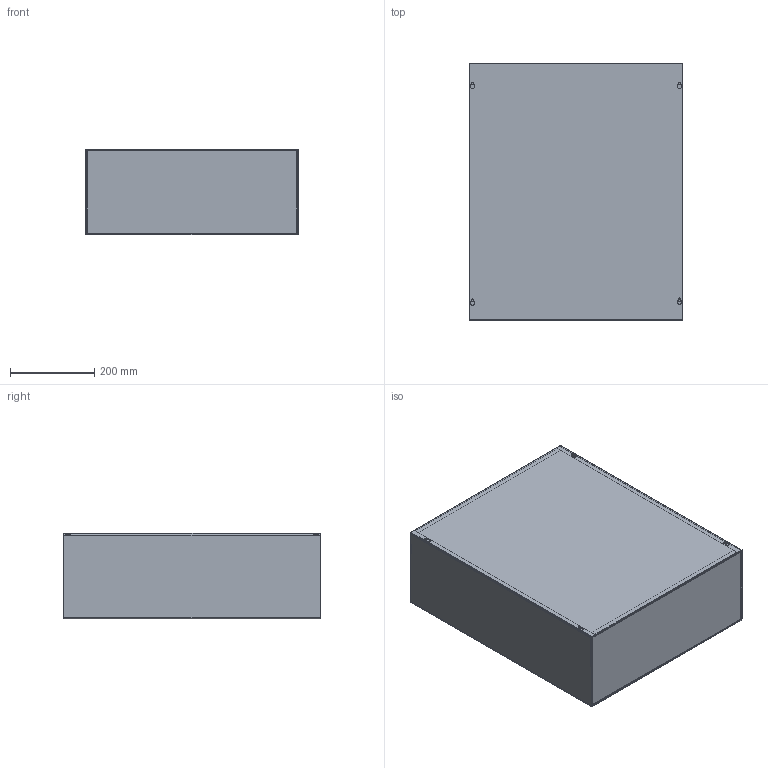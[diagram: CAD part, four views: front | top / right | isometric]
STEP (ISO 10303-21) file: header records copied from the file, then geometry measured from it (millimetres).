
FILE_DESCRIPTION (( 'STEP AP203' ), '1' );
FILE_NAME ('asg24x20x8nk.STEP', '2011-02-04T20:59:50', ( 'Hoffman User' ), ( 'Hoffman Enclosures' ), 'SwSTEP 2.0', 'SolidWorks 2009', '' );
FILE_SCHEMA (( 'CONFIG_CONTROL_DESIGN' ));
Length unit declared in the file: inch
Products named in the file (5): 87757890; 87757711; asg24x20x8nk; 89054639_WELDMENT; 87757892
Assembly tree (5 placements, depth 3):
  asg24x20x8nk
    89054639_WELDMENT
      87757892  x2
      87757890
    87757711
Bounding box: 508 x 609.6 x 204.6 mm (x, y, z)
Volume: 1799732.7 mm3; surface area: 2239749.5 mm2
Topology: 4 solids, 4 shells, 189 faces, 434 edges, 256 vertices
Faces by surface type: plane 107, cylinder 60, torus 10, bspline 8, cone 4
Entity records: 5207 total; most frequent: CARTESIAN_POINT 1174, DIRECTION 768, ORIENTED_EDGE 688, EDGE_CURVE 344, AXIS2_PLACEMENT_3D 280, VECTOR 208, LINE 208, VERTEX_POINT 206
